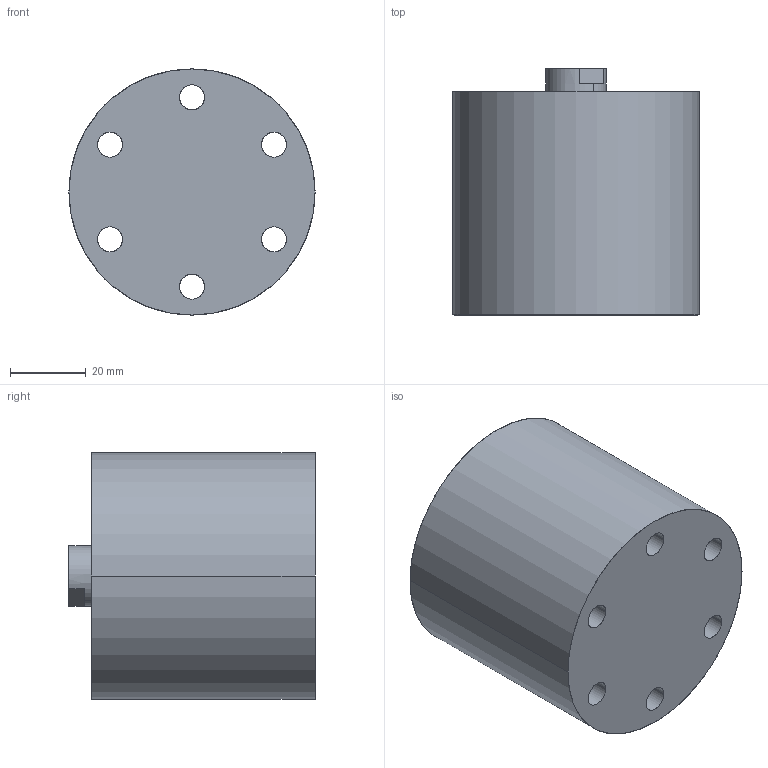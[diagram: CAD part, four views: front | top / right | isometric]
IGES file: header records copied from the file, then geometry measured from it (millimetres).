
Start section: SolidWorks IGES file using analytic representation for surfaces
Global section: file name: D:\abhilash\nijil\cylinder\Clasys1\COMPACT CYLINDER\OD 65\pt\low block cyl assys.IGS; native system: SolidWorks 2010; preprocessor: SolidWorks 2010; author: nidheesh; date: 130730.122120; units: millimetre
Bounding box: 65 x 65 x 65 mm (x, y, z)
Surface area: 29382.8 mm2 (no closed solid volume)
Topology: 0 solids, 0 shells, 43 faces, 1148 edges, 1148 vertices
Faces by surface type: revolution 30, bspline 13
